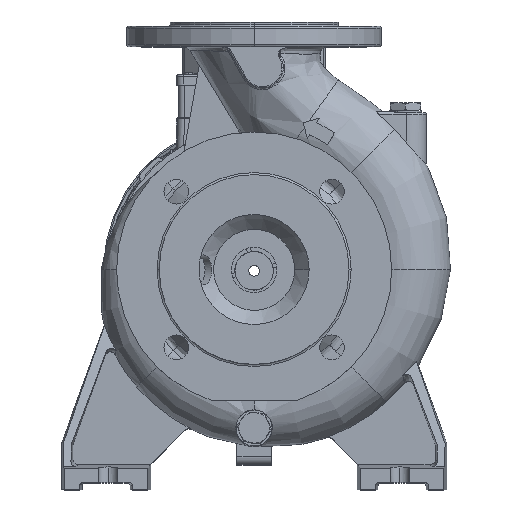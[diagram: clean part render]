
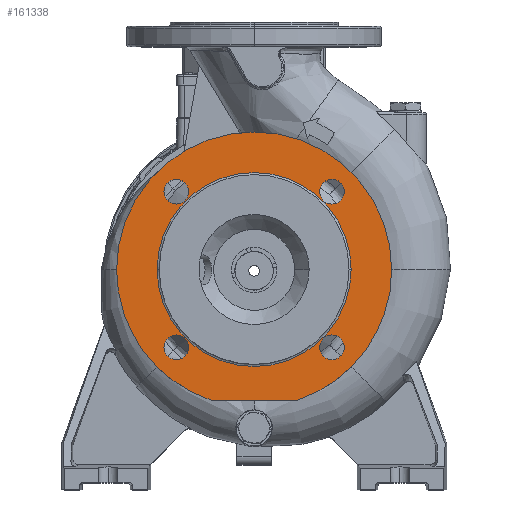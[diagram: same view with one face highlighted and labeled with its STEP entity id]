
A CAD part, top view. The second image highlights one B-rep face of the part: STEP entity #161338.
In plain terms, the highlighted planar face has unit normal (0, 0, 1).
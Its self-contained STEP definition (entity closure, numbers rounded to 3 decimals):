
#748 = EDGE_CURVE ( 'NONE', #135575, #138938, #2282, .T. ) ;
#1897 = CARTESIAN_POINT ( 'NONE',  ( -100., 0., 97. ) ) ;
#2271 = VECTOR ( 'NONE', #61351, 1000. ) ;
#2282 = CIRCLE ( 'NONE', #125331, 70.5 ) ;
#2677 = CARTESIAN_POINT ( 'NONE',  ( -65.569, -56.569, 97. ) ) ;
#3337 = CIRCLE ( 'NONE', #66832, 9. ) ;
#3875 = CARTESIAN_POINT ( 'NONE',  ( -47.569, 56.569, 97. ) ) ;
#4593 = EDGE_CURVE ( 'NONE', #119476, #92437, #116640, .T. ) ;
#5658 = ORIENTED_EDGE ( 'NONE', *, *, #57650, .F. ) ;
#5965 = DIRECTION ( 'NONE',  ( -1., 0., 0. ) ) ;
#6015 = CARTESIAN_POINT ( 'NONE',  ( 56.569, 56.569, 97. ) ) ;
#8868 = DIRECTION ( 'NONE',  ( 1., 0., 0. ) ) ;
#9170 = EDGE_LOOP ( 'NONE', ( #53470, #122449 ) ) ;
#10353 = AXIS2_PLACEMENT_3D ( 'NONE', #46622, #162712, #138031 ) ;
#10738 = VERTEX_POINT ( 'NONE', #48006 ) ;
#12103 = FACE_BOUND ( 'NONE', #19090, .T. ) ;
#14078 = FACE_BOUND ( 'NONE', #138983, .T. ) ;
#14525 = ORIENTED_EDGE ( 'NONE', *, *, #4593, .F. ) ;
#15237 = CIRCLE ( 'NONE', #105357, 70.5 ) ;
#15997 = CARTESIAN_POINT ( 'NONE',  ( -56.569, -56.569, 97. ) ) ;
#17985 = EDGE_LOOP ( 'NONE', ( #135773, #5658 ) ) ;
#19090 = EDGE_LOOP ( 'NONE', ( #132034, #136389 ) ) ;
#19092 = CIRCLE ( 'NONE', #124470, 9. ) ;
#21326 = DIRECTION ( 'NONE',  ( 1., 0., 0. ) ) ;
#24175 = CARTESIAN_POINT ( 'NONE',  ( 0., 0., 97. ) ) ;
#27123 = CARTESIAN_POINT ( 'NONE',  ( 0., 0., 97. ) ) ;
#29095 = DIRECTION ( 'NONE',  ( 0., 0., 1. ) ) ;
#30263 = DIRECTION ( 'NONE',  ( 1., 0., 0. ) ) ;
#31260 = DIRECTION ( 'NONE',  ( 0., 0., 1. ) ) ;
#32248 = CARTESIAN_POINT ( 'NONE',  ( 0., 0., 97. ) ) ;
#32492 = EDGE_CURVE ( 'NONE', #160450, #86380, #157717, .T. ) ;
#35095 = CIRCLE ( 'NONE', #105461, 9. ) ;
#35104 = CARTESIAN_POINT ( 'NONE',  ( -56.569, 56.569, 97. ) ) ;
#36159 = DIRECTION ( 'NONE',  ( 0., 0., 1. ) ) ;
#38700 = DIRECTION ( 'NONE',  ( -1., 0., 0. ) ) ;
#40046 = EDGE_LOOP ( 'NONE', ( #161763, #91001, #142680, #146227 ) ) ;
#42464 = CARTESIAN_POINT ( 'NONE',  ( -47.569, -56.569, 97. ) ) ;
#42838 = FACE_BOUND ( 'NONE', #9170, .T. ) ;
#46622 = CARTESIAN_POINT ( 'NONE',  ( 70.5, 0., 97. ) ) ;
#47736 = VERTEX_POINT ( 'NONE', #124770 ) ;
#48006 = CARTESIAN_POINT ( 'NONE',  ( 31.225, -95., 97. ) ) ;
#50089 = EDGE_CURVE ( 'NONE', #92437, #119476, #70529, .T. ) ;
#51036 = CARTESIAN_POINT ( 'NONE',  ( 65.569, -56.569, 97. ) ) ;
#52962 = FACE_BOUND ( 'NONE', #168623, .T. ) ;
#53470 = ORIENTED_EDGE ( 'NONE', *, *, #97113, .F. ) ;
#57121 = FACE_BOUND ( 'NONE', #17985, .T. ) ;
#57650 = EDGE_CURVE ( 'NONE', #133943, #116502, #3337, .T. ) ;
#60121 = CARTESIAN_POINT ( 'NONE',  ( 70.5, 0., 97. ) ) ;
#60221 = CARTESIAN_POINT ( 'NONE',  ( -56.569, 56.569, 97. ) ) ;
#61351 = DIRECTION ( 'NONE',  ( 1., 0., 0. ) ) ;
#61596 = LINE ( 'NONE', #115080, #2271 ) ;
#62101 = EDGE_CURVE ( 'NONE', #116502, #133943, #35095, .T. ) ;
#64178 = EDGE_CURVE ( 'NONE', #90785, #160088, #119567, .T. ) ;
#65782 = CIRCLE ( 'NONE', #78298, 9. ) ;
#66311 = CARTESIAN_POINT ( 'NONE',  ( 100., 0., 97. ) ) ;
#66832 = AXIS2_PLACEMENT_3D ( 'NONE', #136458, #31260, #71271 ) ;
#67423 = DIRECTION ( 'NONE',  ( -1., 0., 0. ) ) ;
#70157 = VERTEX_POINT ( 'NONE', #144606 ) ;
#70529 = CIRCLE ( 'NONE', #166680, 9. ) ;
#70635 = DIRECTION ( 'NONE',  ( 1., 0., 0. ) ) ;
#70772 = AXIS2_PLACEMENT_3D ( 'NONE', #100770, #36159, #112791 ) ;
#71271 = DIRECTION ( 'NONE',  ( 1., 0., 0. ) ) ;
#71344 = DIRECTION ( 'NONE',  ( -1., 0., 0. ) ) ;
#72490 = CIRCLE ( 'NONE', #116417, 100. ) ;
#72861 = DIRECTION ( 'NONE',  ( 0., 0., 1. ) ) ;
#78298 = AXIS2_PLACEMENT_3D ( 'NONE', #35104, #72861, #88216 ) ;
#78836 = EDGE_CURVE ( 'NONE', #47736, #160450, #137667, .T. ) ;
#80107 = EDGE_CURVE ( 'NONE', #70157, #146119, #65782, .T. ) ;
#81770 = CIRCLE ( 'NONE', #129684, 9. ) ;
#84832 = DIRECTION ( 'NONE',  ( 0., 0., -1. ) ) ;
#84952 = CARTESIAN_POINT ( 'NONE',  ( 56.569, -56.569, 97. ) ) ;
#86077 = AXIS2_PLACEMENT_3D ( 'NONE', #24175, #129380, #115723 ) ;
#86380 = VERTEX_POINT ( 'NONE', #66311 ) ;
#88216 = DIRECTION ( 'NONE',  ( 1., 0., 0. ) ) ;
#90785 = VERTEX_POINT ( 'NONE', #143419 ) ;
#91001 = ORIENTED_EDGE ( 'NONE', *, *, #169637, .T. ) ;
#92437 = VERTEX_POINT ( 'NONE', #152512 ) ;
#93901 = CARTESIAN_POINT ( 'NONE',  ( -70.5, 0., 97. ) ) ;
#97113 = EDGE_CURVE ( 'NONE', #160088, #90785, #81770, .T. ) ;
#98613 = PLANE ( 'NONE',  #10353 ) ;
#99483 = EDGE_CURVE ( 'NONE', #146119, #70157, #19092, .T. ) ;
#100770 = CARTESIAN_POINT ( 'NONE',  ( 56.569, -56.569, 97. ) ) ;
#102441 = AXIS2_PLACEMENT_3D ( 'NONE', #145181, #29095, #121202 ) ;
#102750 = DIRECTION ( 'NONE',  ( 0., 0., -1. ) ) ;
#103923 = CARTESIAN_POINT ( 'NONE',  ( 0., 0., 97. ) ) ;
#103974 = ORIENTED_EDGE ( 'NONE', *, *, #748, .T. ) ;
#105357 = AXIS2_PLACEMENT_3D ( 'NONE', #32248, #84832, #5965 ) ;
#105461 = AXIS2_PLACEMENT_3D ( 'NONE', #15997, #106935, #30263 ) ;
#106935 = DIRECTION ( 'NONE',  ( 0., 0., 1. ) ) ;
#108263 = ORIENTED_EDGE ( 'NONE', *, *, #144490, .T. ) ;
#112791 = DIRECTION ( 'NONE',  ( 1., 0., 0. ) ) ;
#115080 = CARTESIAN_POINT ( 'NONE',  ( 70.5, -95., 97. ) ) ;
#115723 = DIRECTION ( 'NONE',  ( -1., 0., 0. ) ) ;
#116417 = AXIS2_PLACEMENT_3D ( 'NONE', #149648, #134850, #71344 ) ;
#116502 = VERTEX_POINT ( 'NONE', #42464 ) ;
#116640 = CIRCLE ( 'NONE', #70772, 9. ) ;
#118643 = DIRECTION ( 'NONE',  ( 0., 0., -1. ) ) ;
#119476 = VERTEX_POINT ( 'NONE', #51036 ) ;
#119567 = CIRCLE ( 'NONE', #102441, 9. ) ;
#120596 = FACE_OUTER_BOUND ( 'NONE', #40046, .T. ) ;
#121202 = DIRECTION ( 'NONE',  ( 1., 0., 0. ) ) ;
#122449 = ORIENTED_EDGE ( 'NONE', *, *, #64178, .F. ) ;
#123682 = EDGE_CURVE ( 'NONE', #86380, #10738, #72490, .T. ) ;
#124470 = AXIS2_PLACEMENT_3D ( 'NONE', #60221, #152283, #21326 ) ;
#124770 = CARTESIAN_POINT ( 'NONE',  ( -31.225, -95., 97. ) ) ;
#125331 = AXIS2_PLACEMENT_3D ( 'NONE', #103923, #102750, #38700 ) ;
#129380 = DIRECTION ( 'NONE',  ( 0., 0., -1. ) ) ;
#129684 = AXIS2_PLACEMENT_3D ( 'NONE', #6015, #161572, #70635 ) ;
#132034 = ORIENTED_EDGE ( 'NONE', *, *, #99483, .F. ) ;
#133943 = VERTEX_POINT ( 'NONE', #2677 ) ;
#134850 = DIRECTION ( 'NONE',  ( 0., 0., -1. ) ) ;
#135575 = VERTEX_POINT ( 'NONE', #93901 ) ;
#135773 = ORIENTED_EDGE ( 'NONE', *, *, #62101, .F. ) ;
#136389 = ORIENTED_EDGE ( 'NONE', *, *, #80107, .F. ) ;
#136458 = CARTESIAN_POINT ( 'NONE',  ( -56.569, -56.569, 97. ) ) ;
#136980 = DIRECTION ( 'NONE',  ( 0., 0., 1. ) ) ;
#137667 = CIRCLE ( 'NONE', #86077, 100. ) ;
#137992 = CARTESIAN_POINT ( 'NONE',  ( 65.569, 56.569, 97. ) ) ;
#138031 = DIRECTION ( 'NONE',  ( -1., 0., 0. ) ) ;
#138938 = VERTEX_POINT ( 'NONE', #60121 ) ;
#138983 = EDGE_LOOP ( 'NONE', ( #103974, #108263 ) ) ;
#142680 = ORIENTED_EDGE ( 'NONE', *, *, #123682, .F. ) ;
#143419 = CARTESIAN_POINT ( 'NONE',  ( 47.569, 56.569, 97. ) ) ;
#144490 = EDGE_CURVE ( 'NONE', #138938, #135575, #15237, .T. ) ;
#144606 = CARTESIAN_POINT ( 'NONE',  ( -65.569, 56.569, 97. ) ) ;
#145181 = CARTESIAN_POINT ( 'NONE',  ( 56.569, 56.569, 97. ) ) ;
#145671 = AXIS2_PLACEMENT_3D ( 'NONE', #27123, #118643, #67423 ) ;
#146119 = VERTEX_POINT ( 'NONE', #3875 ) ;
#146227 = ORIENTED_EDGE ( 'NONE', *, *, #32492, .F. ) ;
#149648 = CARTESIAN_POINT ( 'NONE',  ( 0., 0., 97. ) ) ;
#152283 = DIRECTION ( 'NONE',  ( 0., 0., 1. ) ) ;
#152512 = CARTESIAN_POINT ( 'NONE',  ( 47.569, -56.569, 97. ) ) ;
#157717 = CIRCLE ( 'NONE', #145671, 100. ) ;
#160088 = VERTEX_POINT ( 'NONE', #137992 ) ;
#160450 = VERTEX_POINT ( 'NONE', #1897 ) ;
#161338 = ADVANCED_FACE ( 'NONE', ( #12103, #57121, #52962, #42838, #14078, #120596 ), #98613, .F. ) ;
#161572 = DIRECTION ( 'NONE',  ( 0., 0., 1. ) ) ;
#161763 = ORIENTED_EDGE ( 'NONE', *, *, #78836, .F. ) ;
#162712 = DIRECTION ( 'NONE',  ( 0., 0., -1. ) ) ;
#163128 = ORIENTED_EDGE ( 'NONE', *, *, #50089, .F. ) ;
#166680 = AXIS2_PLACEMENT_3D ( 'NONE', #84952, #136980, #8868 ) ;
#168623 = EDGE_LOOP ( 'NONE', ( #14525, #163128 ) ) ;
#169637 = EDGE_CURVE ( 'NONE', #47736, #10738, #61596, .T. ) ;
